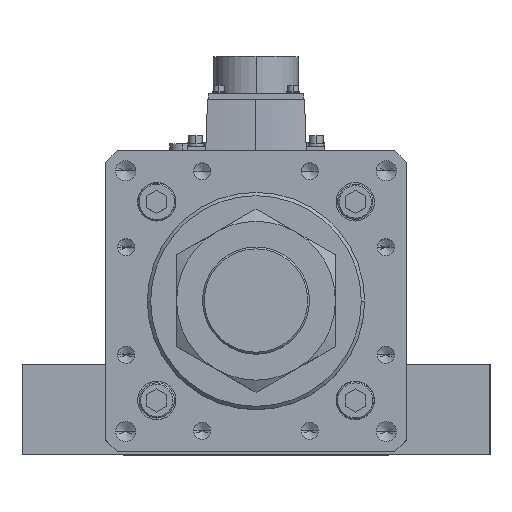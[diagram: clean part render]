
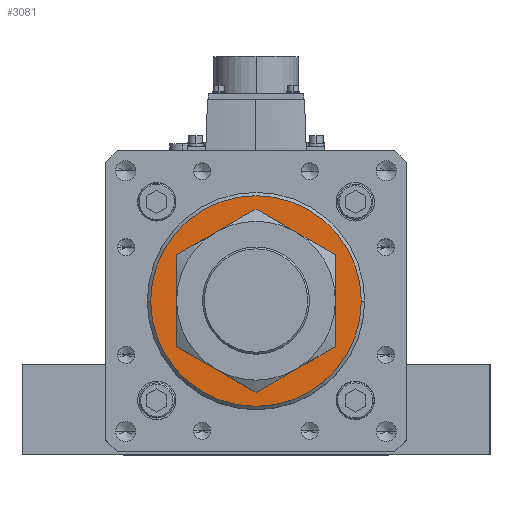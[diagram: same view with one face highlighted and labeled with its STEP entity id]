
A CAD part, top view. The second image highlights one B-rep face of the part: STEP entity #3081.
In plain terms, the highlighted planar face has unit normal (0, 0, 1).
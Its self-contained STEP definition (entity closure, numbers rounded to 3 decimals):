
#140 = CARTESIAN_POINT ( 'NONE',  ( 0., 0., 962. ) ) ;
#336 = CARTESIAN_POINT ( 'NONE',  ( 40.5, 0., 962. ) ) ;
#1059 = DIRECTION ( 'NONE',  ( 0., 0., 1. ) ) ;
#1603 = FACE_BOUND ( 'NONE', #29439, .T. ) ;
#2416 = CIRCLE ( 'NONE', #47787, 63. ) ;
#2726 = DIRECTION ( 'NONE',  ( 1., 0., 0. ) ) ;
#3081 = ADVANCED_FACE ( 'NONE', ( #1603, #50066 ), #36471, .T. ) ;
#5347 = CARTESIAN_POINT ( 'NONE',  ( -63., 0., 962. ) ) ;
#6060 = CARTESIAN_POINT ( 'NONE',  ( 63., 0., 962. ) ) ;
#7048 = CARTESIAN_POINT ( 'NONE',  ( 0., 0., 962. ) ) ;
#7067 = AXIS2_PLACEMENT_3D ( 'NONE', #7048, #37849, #55982 ) ;
#8348 = EDGE_CURVE ( 'NONE', #46014, #18433, #32066, .T. ) ;
#8665 = DIRECTION ( 'NONE',  ( 0., 0., -1. ) ) ;
#9358 = CIRCLE ( 'NONE', #7067, 40.5 ) ;
#9430 = DIRECTION ( 'NONE',  ( 1., 0., 0. ) ) ;
#9659 = AXIS2_PLACEMENT_3D ( 'NONE', #50914, #29218, #2726 ) ;
#18037 = DIRECTION ( 'NONE',  ( 1., 0., 0. ) ) ;
#18362 = VERTEX_POINT ( 'NONE', #336 ) ;
#18433 = VERTEX_POINT ( 'NONE', #5347 ) ;
#23647 = CARTESIAN_POINT ( 'NONE',  ( -40.5, 0., 962. ) ) ;
#27435 = AXIS2_PLACEMENT_3D ( 'NONE', #140, #8665, #9430 ) ;
#28319 = ORIENTED_EDGE ( 'NONE', *, *, #36584, .T. ) ;
#29218 = DIRECTION ( 'NONE',  ( 0., 0., 1. ) ) ;
#29439 = EDGE_LOOP ( 'NONE', ( #37937, #28319 ) ) ;
#30505 = DIRECTION ( 'NONE',  ( 1., 0., 0. ) ) ;
#32066 = CIRCLE ( 'NONE', #9659, 63. ) ;
#33784 = EDGE_LOOP ( 'NONE', ( #43469, #57196 ) ) ;
#35178 = CARTESIAN_POINT ( 'NONE',  ( 0., 0., 962. ) ) ;
#36471 = PLANE ( 'NONE',  #43553 ) ;
#36584 = EDGE_CURVE ( 'NONE', #44318, #18362, #40588, .T. ) ;
#37849 = DIRECTION ( 'NONE',  ( 0., 0., -1. ) ) ;
#37937 = ORIENTED_EDGE ( 'NONE', *, *, #56770, .T. ) ;
#40588 = CIRCLE ( 'NONE', #27435, 40.5 ) ;
#43469 = ORIENTED_EDGE ( 'NONE', *, *, #53397, .T. ) ;
#43553 = AXIS2_PLACEMENT_3D ( 'NONE', #49246, #1059, #18037 ) ;
#44318 = VERTEX_POINT ( 'NONE', #23647 ) ;
#46014 = VERTEX_POINT ( 'NONE', #6060 ) ;
#47787 = AXIS2_PLACEMENT_3D ( 'NONE', #35178, #56958, #30505 ) ;
#49246 = CARTESIAN_POINT ( 'NONE',  ( 0., 0., 962. ) ) ;
#50066 = FACE_OUTER_BOUND ( 'NONE', #33784, .T. ) ;
#50914 = CARTESIAN_POINT ( 'NONE',  ( 0., 0., 962. ) ) ;
#53397 = EDGE_CURVE ( 'NONE', #18433, #46014, #2416, .T. ) ;
#55982 = DIRECTION ( 'NONE',  ( 1., 0., 0. ) ) ;
#56770 = EDGE_CURVE ( 'NONE', #18362, #44318, #9358, .T. ) ;
#56958 = DIRECTION ( 'NONE',  ( 0., 0., 1. ) ) ;
#57196 = ORIENTED_EDGE ( 'NONE', *, *, #8348, .T. ) ;
